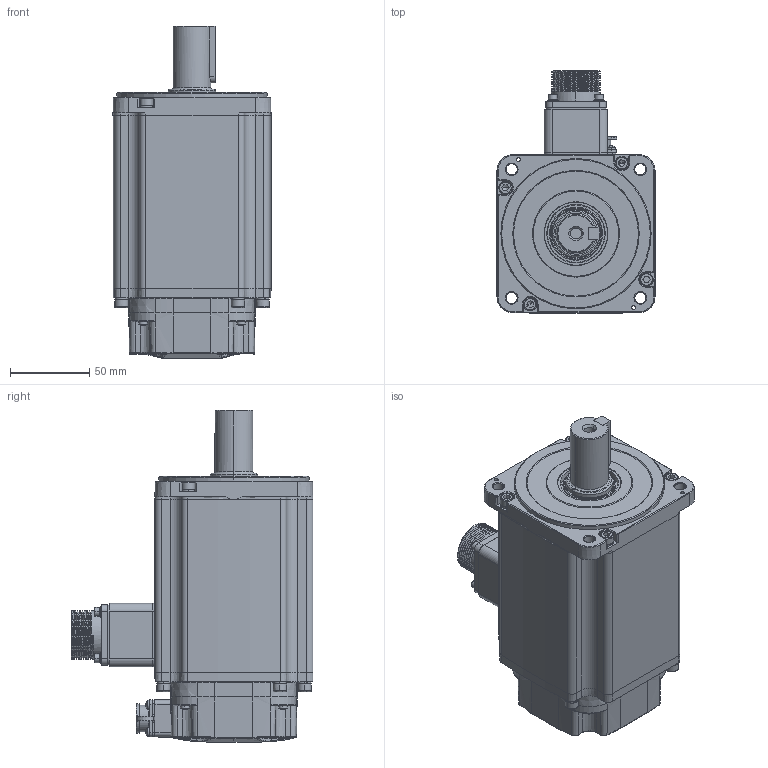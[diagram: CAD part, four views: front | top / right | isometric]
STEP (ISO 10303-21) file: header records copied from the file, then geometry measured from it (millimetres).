
FILE_DESCRIPTION (( 'STEP AP214' ), '1' );
FILE_NAME ('UMM-0015CA_EA-B5.STEP', '2024-08-20T07:28:10', ( '' ), ( '' ), 'SwSTEP 2.0', 'SolidWorks 2022', '' );
FILE_SCHEMA (( 'AUTOMOTIVE_DESIGN' ));
Length unit declared in the file: millimetre
Products named in the file (1): UMM-0015CA_EA-B5
Bounding box: 100 x 153.05 x 210 mm (x, y, z)
Surface area: 106162.3 mm2 (no closed solid volume)
Topology: 0 solids, 113 shells, 886 faces, 2765 edges, 1964 vertices
Faces by surface type: plane 307, cylinder 265, bspline 182, cone 132
Entity records: 43149 total; most frequent: CARTESIAN_POINT 20634, ORIENTED_EDGE 4398, DIRECTION 4303, EDGE_CURVE 2725, VERTEX_POINT 1964, AXIS2_PLACEMENT_3D 1576, VECTOR 1151, LINE 1151
